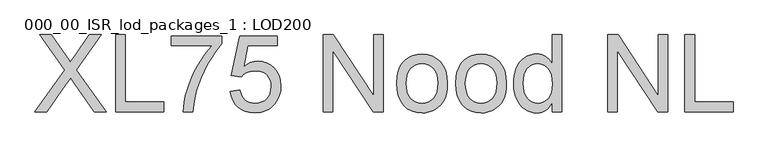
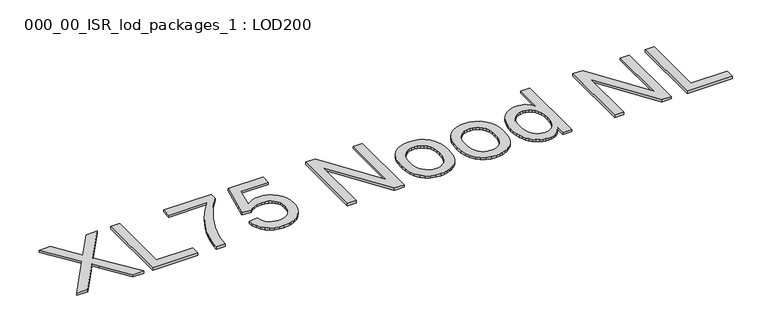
"""IFC4 building model written with IfcOpenShell, lengths in millimetres: proxy geometry, 000_00_ISR_lod_packages_1 : LOD200."""

from ifc_helpers import new_model, si_unit, origin, origin_with_axes, place, context, project, spatial, polyline, outline, extrude, source, transform, mapped, element, save


def proxy_000_00_isr_lod_packages_1_lod200_caf191f5(model_context):
    return source(origin(), model_context, "Body", "SweptSolid", [
        extrude(outline(polyline([(500.0, 500.0), (808.1627819, 935.6043884), (549.9617936, 1299.3886983), (669.7920331, 1299.3886983), (815.1886591, 1094.6624423), (849.878928, 1042.7978069), (864.1746365, 1014.8406705), (921.5526339, 1096.0285851), (1065.3879539, 1299.3886983), (1186.9746626, 1299.3886983), (928.7736744, 934.4334088), (1236.9364563, 500.0), (1117.1062168, 500.0), (911.7944711, 789.6222725), (869.0537179, 849.7325555), (822.0193731, 783.7673749), (621.5867088, 500.0), (500.0, 500.0)])), origin_with_axes(), (0.0, 0.0, 1.0), 25.0),
        extrude(outline(polyline([(1336.8600436, 500.0), (1336.8600436, 1299.3886983), (1436.7836309, 1299.3886983), (1436.7836309, 599.9235873), (1836.47798, 599.9235873), (1836.47798, 500.0), (1336.8600436, 500.0)])), origin_with_axes(), (0.0, 0.0, 1.0), 25.0),
        extrude(outline(polyline([(1911.4206705, 1186.9746626), (1911.4206705, 1286.8982499), (2436.0195038, 1286.8982499), (2436.0195038, 1206.1006618), (2398.5420597, 1161.9998647), (2361.2475812, 1111.4708778), (2324.1360682, 1054.5137012), (2287.2075208, 991.1283348), (2252.4623623, 924.059262), (2221.9010161, 856.050966), (2195.5234822, 787.1034468), (2173.3297606, 717.2167044), (2149.5198434, 613.3410612), (2136.2487419, 500.0), (2036.3251546, 500.0), (2039.4660633, 549.0713613), (2047.13232, 602.9974086), (2059.3239246, 661.7781419), (2076.0408773, 725.4135612), (2097.0880147, 790.8847349), (2122.2701737, 855.1727313), (2151.5873541, 918.2775505), (2185.039556, 980.1991924), (2221.1203631, 1039.1201993), (2258.3233588, 1093.2231133), (2296.6485433, 1142.5079344), (2336.0959165, 1186.9746626), (1911.4206705, 1186.9746626)])), origin_with_axes(), (0.0, 0.0, 1.0), 25.0),
        extrude(outline(polyline([(2523.4526427, 712.337623), (2623.37623, 724.8280714), (2630.8412245, 692.7054192), (2641.7215761, 664.8397655), (2656.0172846, 641.2311103), (2673.7283501, 621.8794536), (2694.8181795, 606.8091909), (2719.2501797, 596.0447176), (2747.0243506, 589.5860336), (2778.1406923, 587.4331389), (2816.1975273, 590.4276751), (2849.7656074, 599.4112837), (2878.8449326, 614.3839648), (2903.4355029, 635.3457183), (2922.9884217, 661.2597395), (2936.9547922, 691.0892235), (2945.3346146, 724.8341703), (2948.1278887, 762.4945799), (2945.5114813, 798.0874788), (2937.662259, 829.7283217), (2924.580222, 857.4171087), (2906.2653702, 881.1538398), (2882.656715, 900.194455), (2853.693268, 913.7948944), (2819.3750291, 921.9551581), (2779.7019984, 924.675246), (2731.2283246, 920.3328635), (2691.9761146, 907.3057162), (2660.6280165, 887.3502732), (2635.8666784, 862.2230039), (2535.9430911, 874.7134523), (2623.37623, 1286.8982499), (3010.5801307, 1286.8982499), (3010.5801307, 1186.9746626), (2704.1738181, 1186.9746626), (2661.433065, 966.8305094), (2696.6966259, 992.1041511), (2732.814026, 1010.1567523), (2769.7852654, 1020.988313), (2807.610344, 1024.5988333), (2856.2730823, 1020.1222761), (2900.9715668, 1006.6926045), (2941.7057978, 984.3098185), (2978.475775, 952.9739182), (3008.9151442, 914.5999429), (3030.6575507, 871.1029321), (3043.7029947, 822.4828858), (3048.051476, 768.7398041), (3044.1360131, 716.9727503), (3032.3896246, 668.8162168), (3012.8123105, 624.2702035), (2985.4040707, 583.3347105), (2965.5096162, 560.8756889), (2943.8830878, 541.4112035), (2920.5244856, 524.9412543), (2895.4338094, 511.4658413), (2868.6110594, 500.9849646), (2840.0562354, 493.498624), (2777.7503658, 487.5095516), (2726.1845741, 491.3579271), (2679.6076432, 502.9030534), (2638.0195731, 522.1449308), (2601.4203636, 549.083559), (2570.9687968, 582.3771908), (2547.8236543, 620.6840787), (2531.9849363, 664.0042228), (2523.4526427, 712.337623)])), origin_with_axes(), (0.0, 0.0, 1.0), 25.0),
        extrude(outline(polyline([(3485.2171704, 500.0), (3485.2171704, 1299.3886983), (3592.1666349, 1299.3886983), (4009.8160037, 666.0839312), (4009.8160037, 1299.3886983), (4109.739591, 1299.3886983), (4109.739591, 500.0), (4002.7901264, 500.0), (3585.1407577, 1133.4999304), (3585.1407577, 500.0), (3485.2171704, 500.0)])), origin_with_axes(), (0.0, 0.0, 1.0), 25.0),
        extrude(outline(polyline([(4247.1345235, 793.5255377), (4252.5381061, 869.5538238), (4259.2925845, 903.6250591), (4268.7488541, 935.0676894), (4280.9069151, 963.8817146), (4295.7667674, 990.0671346), (4313.3284111, 1013.6239495), (4333.5918461, 1034.5521594), (4371.6730765, 1062.9850063), (4413.7063628, 1083.2941827), (4459.6917051, 1095.4796885), (4509.6291034, 1099.5415238), (4564.7566245, 1094.595355), (4614.6025399, 1079.7568486), (4659.1668498, 1055.0260047), (4698.449554, 1020.4028233), (4730.5112177, 977.0582838), (4753.4124061, 926.1633658), (4767.1531191, 867.7180694), (4771.7333568, 801.7223944), (4769.708538, 748.2354645), (4763.6340816, 700.7742001), (4753.5099877, 659.3386012), (4739.3362562, 623.9286678), (4721.2897538, 593.3429262), (4699.5473473, 566.3799026), (4674.1090366, 543.0395969), (4644.9748217, 523.3220091), (4613.2790891, 507.654059), (4580.1562252, 496.462666), (4545.6062299, 489.7478302), (4509.6291034, 487.5095516), (4453.6965339, 492.4374238), (4403.3871057, 507.2210405), (4358.7008188, 531.8604016), (4319.6376732, 566.3555072), (4287.9175452, 610.1208674), (4265.2603109, 662.5709926), (4251.6659703, 723.7058827), (4247.1345235, 793.5255377)]), holes=[polyline([(4347.0581108, 793.7207009), (4349.9489665, 745.253126), (4358.6215337, 703.286927), (4373.0758124, 667.822104), (4393.3118025, 638.858657), (4417.9267683, 616.3599928), (4445.5179736, 600.2895184), (4476.0854187, 590.6472338), (4509.6291034, 587.4331389), (4543.0020202, 590.6655303), (4573.4474882, 600.3627046), (4600.9655074, 616.5246618), (4625.5560777, 639.1514018), (4645.7920678, 668.4014949), (4660.2463465, 704.4335111), (4668.9189137, 747.2474505), (4671.8097695, 796.843313), (4668.9006172, 843.7739774), (4660.1731603, 884.642383), (4645.6273989, 919.44853), (4625.2633328, 948.1924184), (4600.5812797, 970.6910825), (4573.0815571, 986.7615569), (4542.764165, 996.4038416), (4509.6291034, 999.6179365), (4476.0854187, 996.4160393), (4445.5179736, 986.8103478), (4417.9267683, 970.8008619), (4393.3118025, 948.3875817), (4373.0758124, 919.5095186), (4358.6215337, 884.1056841), (4349.9489665, 842.1760782), (4347.0581108, 793.7207009)])]), origin_with_axes(), (0.0, 0.0, 1.0), 25.0),
        extrude(outline(polyline([(4859.1664956, 793.5255377), (4864.5700783, 869.5538238), (4871.3245566, 903.6250591), (4880.7808263, 935.0676894), (4892.9388873, 963.8817146), (4907.7987396, 990.0671346), (4925.3603833, 1013.6239495), (4945.6238182, 1034.5521594), (4983.7050487, 1062.9850063), (5025.738335, 1083.2941827), (5071.7236773, 1095.4796885), (5121.6610755, 1099.5415238), (5176.7885966, 1094.595355), (5226.6345121, 1079.7568486), (5271.1988219, 1055.0260047), (5310.4815261, 1020.4028233), (5342.5431899, 977.0582838), (5365.4443782, 926.1633658), (5379.1850913, 867.7180694), (5383.7653289, 801.7223944), (5381.7405101, 748.2354645), (5375.6660538, 700.7742001), (5365.5419599, 659.3386012), (5351.3682284, 623.9286678), (5333.321726, 593.3429262), (5311.5793195, 566.3799026), (5286.1410088, 543.0395969), (5257.0067939, 523.3220091), (5225.3110613, 507.654059), (5192.1881973, 496.462666), (5157.6382021, 489.7478302), (5121.6610755, 487.5095516), (5065.728506, 492.4374238), (5015.4190778, 507.2210405), (4970.732791, 531.8604016), (4931.6696454, 566.3555072), (4899.9495174, 610.1208674), (4877.2922831, 662.5709926), (4863.6979425, 723.7058827), (4859.1664956, 793.5255377)]), holes=[polyline([(4959.0900829, 793.7207009), (4961.9809387, 745.253126), (4970.6535059, 703.286927), (4985.1077846, 667.822104), (5005.3437747, 638.858657), (5029.9587404, 616.3599928), (5057.5499458, 600.2895184), (5088.1173908, 590.6472338), (5121.6610755, 587.4331389), (5155.0339924, 590.6655303), (5185.4794604, 600.3627046), (5212.9974796, 616.5246618), (5237.5880499, 639.1514018), (5257.82404, 668.4014949), (5272.2783187, 704.4335111), (5280.9508859, 747.2474505), (5283.8417416, 796.843313), (5280.9325893, 843.7739774), (5272.2051325, 884.642383), (5257.659371, 919.44853), (5237.295305, 948.1924184), (5212.6132519, 970.6910825), (5185.1135293, 986.7615569), (5154.7961372, 996.4038416), (5121.6610755, 999.6179365), (5088.1173908, 996.4160393), (5057.5499458, 986.8103478), (5029.9587404, 970.8008619), (5005.3437747, 948.3875817), (4985.1077846, 919.5095186), (4970.6535059, 884.1056841), (4961.9809387, 842.1760782), (4959.0900829, 793.7207009)])]), origin_with_axes(), (0.0, 0.0, 1.0), 25.0),
        extrude(outline(polyline([(5858.4023686, 500.0), (5858.4023686, 594.2638529), (5828.5057972, 547.5588461), (5811.1881076, 529.2104505), (5792.2908155, 514.1981269), (5771.8139207, 502.5218752), (5749.7574233, 494.1816954), (5726.1213233, 489.1775875), (5700.9056206, 487.5095516), (5667.9230303, 489.9246969), (5636.3065828, 497.1701328), (5606.056278, 509.2458593), (5577.1721161, 526.1518764), (5550.556727, 547.3819794), (5527.1127408, 572.4299635), (5506.8401575, 601.2958289), (5489.7389772, 633.9795755), (5476.1629332, 669.8591205), (5466.4657588, 708.3123808), (5460.6474543, 749.3393566), (5458.7080194, 792.9400479), (5460.494983, 835.7417896), (5465.8558737, 876.5187125), (5474.7906915, 915.2708166), (5487.2994365, 951.9981019), (5503.3760097, 985.6271705), (5523.0143124, 1015.0846245), (5546.2143445, 1040.3704639), (5572.976106, 1061.4846888), (5602.354275, 1078.1345541), (5633.4035293, 1090.027315), (5666.123869, 1097.1629716), (5700.5152941, 1099.5415238), (5725.6669588, 1097.8399441), (5749.4036899, 1092.7352052), (5771.7254873, 1084.227307), (5792.6323512, 1072.3162495), (5829.2742526, 1041.0169422), (5858.4023686, 1001.569569), (5858.4023686, 1299.3886983), (5958.3259559, 1299.3886983), (5958.3259559, 500.0), (5858.4023686, 500.0)]), holes=[polyline([(5558.6316067, 793.3303744), (5561.4492762, 744.8749972), (5569.9022848, 702.9453913), (5583.9906323, 667.5415568), (5603.7143189, 638.6634937), (5627.2680844, 616.2502135), (5652.8466687, 600.2407276), (5680.4500718, 590.6350361), (5710.0782937, 587.4331389), (5739.8467891, 590.4886636), (5767.2855232, 599.6552378), (5792.3944959, 614.9328615), (5815.1737073, 636.3215346), (5834.0862466, 663.9920251), (5847.5952032, 698.1151007), (5855.7005772, 738.6907615), (5858.4023686, 785.7190074), (5855.6517864, 837.2787002), (5847.40004, 881.4953755), (5833.6471293, 918.3690333), (5814.3930542, 947.8996735), (5791.1137371, 970.5264136), (5765.2850998, 986.6883707), (5736.9071426, 996.385545), (5705.9798653, 999.6179365), (5675.7661537, 996.5136209), (5648.1627506, 987.2006743), (5623.1696561, 971.6790965), (5600.7868701, 949.9488877), (5582.3439424, 921.5343373), (5569.1704225, 885.959735), (5561.2663107, 843.2250807), (5558.6316067, 793.3303744)])]), origin_with_axes(), (0.0, 0.0, 1.0), 25.0),
        extrude(outline(polyline([(6432.9629955, 500.0), (6432.9629955, 1299.3886983), (6539.91246, 1299.3886983), (6957.5618288, 666.0839312), (6957.5618288, 1299.3886983), (7057.4854161, 1299.3886983), (7057.4854161, 500.0), (6950.5359516, 500.0), (6532.8865828, 1133.4999304), (6532.8865828, 500.0), (6432.9629955, 500.0)])), origin_with_axes(), (0.0, 0.0, 1.0), 25.0),
        extrude(outline(polyline([(7232.3516938, 500.0), (7232.3516938, 1299.3886983), (7332.2752811, 1299.3886983), (7332.2752811, 599.9235873), (7731.9696303, 599.9235873), (7731.9696303, 500.0), (7232.3516938, 500.0)])), origin_with_axes(), (0.0, 0.0, 1.0), 25.0),
    ])


if __name__ == "__main__":
    model = new_model("IFC4")
    model_context = context("Model", 3, world=origin())
    ifc_project = project(units=[si_unit("LENGTHUNIT", "METRE", prefix="MILLI")], contexts=[model_context])
    site = spatial("IfcSite", under=ifc_project)
    building = spatial("IfcBuilding", under=site)
    placement = place(None, origin())
    proxy_000_00_isr_lod_packages_1_lod200_shape = proxy_000_00_isr_lod_packages_1_lod200_caf191f5(model_context)
    element("IfcBuildingElementProxy", 1, Name="000_00_ISR_lod_packages_1 : LOD200", ObjectType="000_00_ISR_lod_packages_1 : LOD200", at=placement, inside=building, context=model_context, shape_type="MappedRepresentation", body=[
        mapped(proxy_000_00_isr_lod_packages_1_lod200_shape, transform((0.0, 0.0, 0.0), x_axis=(1.0, 0.0, 0.0), y_axis=(0.0, 1.0, 0.0), z_axis=(0.0, 0.0, 1.0))),
    ])
    save(model, "model.ifc")
